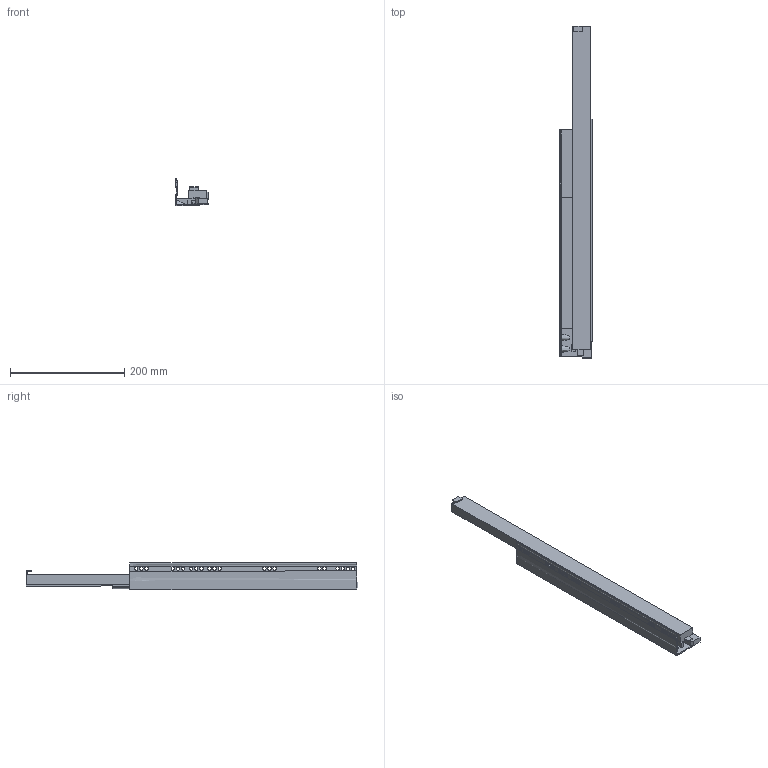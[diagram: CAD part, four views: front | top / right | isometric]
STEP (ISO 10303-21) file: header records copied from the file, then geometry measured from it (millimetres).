
FILE_DESCRIPTION (( 'STEP AP214' ), '1' );
FILE_NAME ('_IMOS_Dynapro_Softclose_D516_NL_580_LI.step', '2010-07-16T06:01:36', ( 'grass' ), ( '' ), 'SwSTEP 2.0', 'SolidWorks 2009', '' );
FILE_SCHEMA (( 'AUTOMOTIVE_DESIGN' ));
Length unit declared in the file: millimetre
Products named in the file (1): _IMOS_Dynapro_Softclose_D516_NL_580_LI
Bounding box: 57.08 x 580.07 x 47.86 mm (x, y, z)
Volume: 480079.4 mm3; surface area: 155426.2 mm2
Topology: 1 solids, 1 shells, 126 faces, 427 edges, 299 vertices
Faces by surface type: plane 77, cylinder 42, bspline 7
Entity records: 5491 total; most frequent: CARTESIAN_POINT 1567, ORIENTED_EDGE 846, DIRECTION 765, EDGE_CURVE 423, VECTOR 315, LINE 315, VERTEX_POINT 299, AXIS2_PLACEMENT_3D 225
